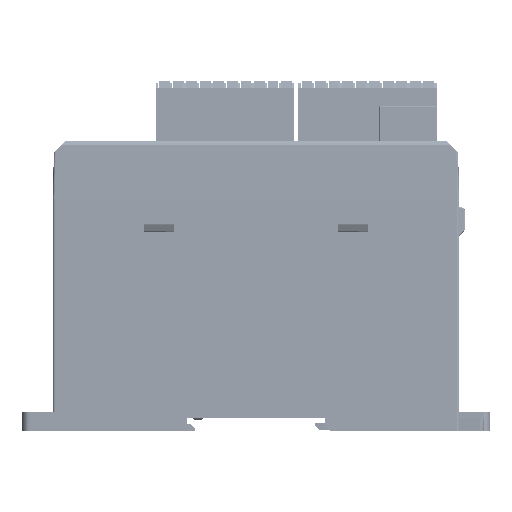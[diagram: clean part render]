
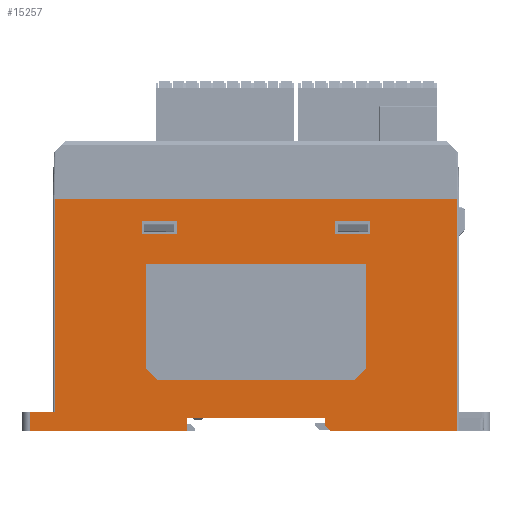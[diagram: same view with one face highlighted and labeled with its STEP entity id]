
A CAD part, left-side view. The second image highlights one B-rep face of the part: STEP entity #15257.
In plain terms, the highlighted planar face has unit normal (-1, 0, 0).
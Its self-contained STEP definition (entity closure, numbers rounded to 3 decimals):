
#205=DIRECTION('',(0.,-1.,0.));
#206=VECTOR('',#205,35.6);
#207=CARTESIAN_POINT('',(-22.5,17.8,0.));
#208=LINE('',#207,#206);
#359=DIRECTION('',(0.,1.,0.));
#360=VECTOR('',#359,32.7);
#361=CARTESIAN_POINT('',(-22.5,-52.,-3.3));
#362=LINE('',#361,#360);
#947=DIRECTION('',(0.,-1.,0.));
#948=VECTOR('',#947,51.);
#949=CARTESIAN_POINT('',(-22.5,25.5,10.));
#950=LINE('',#949,#948);
#951=DIRECTION('',(0.,0.,1.));
#952=VECTOR('',#951,27.);
#953=CARTESIAN_POINT('',(-22.5,-28.5,13.));
#954=LINE('',#953,#952);
#955=DIRECTION('',(0.,1.,0.));
#956=VECTOR('',#955,57.);
#957=CARTESIAN_POINT('',(-22.5,-28.5,40.));
#958=LINE('',#957,#956);
#959=DIRECTION('',(0.,0.,-1.));
#960=VECTOR('',#959,27.);
#961=CARTESIAN_POINT('',(-22.5,28.5,40.));
#962=LINE('',#961,#960);
#963=DIRECTION('',(0.,0.,-1.));
#964=VECTOR('',#963,3.5);
#965=CARTESIAN_POINT('',(-22.5,29.5,51.1));
#966=LINE('',#965,#964);
#967=DIRECTION('',(0.,-1.,0.));
#968=VECTOR('',#967,9.);
#969=CARTESIAN_POINT('',(-22.5,29.5,47.6));
#970=LINE('',#969,#968);
#971=DIRECTION('',(0.,0.,1.));
#972=VECTOR('',#971,3.5);
#973=CARTESIAN_POINT('',(-22.5,20.5,47.6));
#974=LINE('',#973,#972);
#975=DIRECTION('',(0.,1.,0.));
#976=VECTOR('',#975,9.);
#977=CARTESIAN_POINT('',(-22.5,20.5,51.1));
#978=LINE('',#977,#976);
#979=DIRECTION('',(0.,0.,-1.));
#980=VECTOR('',#979,3.5);
#981=CARTESIAN_POINT('',(-22.5,-20.5,51.1));
#982=LINE('',#981,#980);
#983=DIRECTION('',(0.,-1.,0.));
#984=VECTOR('',#983,9.);
#985=CARTESIAN_POINT('',(-22.5,-20.5,47.6));
#986=LINE('',#985,#984);
#987=DIRECTION('',(0.,0.,1.));
#988=VECTOR('',#987,3.5);
#989=CARTESIAN_POINT('',(-22.5,-29.5,47.6));
#990=LINE('',#989,#988);
#991=DIRECTION('',(0.,1.,0.));
#992=VECTOR('',#991,9.);
#993=CARTESIAN_POINT('',(-22.5,-29.5,51.1));
#994=LINE('',#993,#992);
#995=DIRECTION('',(0.,0.,1.));
#996=VECTOR('',#995,5.);
#997=CARTESIAN_POINT('',(-22.5,58.5,-3.3));
#998=LINE('',#997,#996);
#999=DIRECTION('',(0.,0.,1.));
#1000=VECTOR('',#999,54.9);
#1001=CARTESIAN_POINT('',(-22.5,52.,1.7));
#1002=LINE('',#1001,#1000);
#1003=DIRECTION('',(0.,0.,-1.));
#1004=VECTOR('',#1003,59.9);
#1005=CARTESIAN_POINT('',(-22.5,-52.,56.6));
#1006=LINE('',#1005,#1004);
#1007=DIRECTION('',(0.,-0.707,-0.707));
#1008=VECTOR('',#1007,2.121);
#1009=CARTESIAN_POINT('',(-22.5,-17.8,-1.8));
#1010=LINE('',#1009,#1008);
#1011=DIRECTION('',(0.,0.,-1.));
#1012=VECTOR('',#1011,3.3);
#1013=CARTESIAN_POINT('',(-22.5,17.8,0.));
#1014=LINE('',#1013,#1012);
#1015=DIRECTION('',(0.,1.,0.));
#1016=VECTOR('',#1015,40.7);
#1017=CARTESIAN_POINT('',(-22.5,17.8,-3.3));
#1018=LINE('',#1017,#1016);
#1027=DIRECTION('',(0.,0.707,0.707));
#1028=VECTOR('',#1027,4.243);
#1029=CARTESIAN_POINT('',(-22.5,25.5,10.));
#1030=LINE('',#1029,#1028);
#1071=DIRECTION('',(0.,0.707,-0.707));
#1072=VECTOR('',#1071,4.243);
#1073=CARTESIAN_POINT('',(-22.5,-28.5,13.));
#1074=LINE('',#1073,#1072);
#7166=DIRECTION('',(0.,1.,0.));
#7167=VECTOR('',#7166,6.5);
#7168=CARTESIAN_POINT('',(-22.5,52.,1.7));
#7169=LINE('',#7168,#7167);
#7248=DIRECTION('',(0.,0.,-1.));
#7249=VECTOR('',#7248,1.8);
#7250=CARTESIAN_POINT('',(-22.5,-17.8,0.));
#7251=LINE('',#7250,#7249);
#7354=DIRECTION('',(0.,-1.,0.));
#7355=VECTOR('',#7354,104.);
#7356=CARTESIAN_POINT('',(-22.5,52.,56.6));
#7357=LINE('',#7356,#7355);
#11069=CARTESIAN_POINT('',(-22.5,17.8,0.));
#11070=CARTESIAN_POINT('',(-22.5,-17.8,0.));
#11071=VERTEX_POINT('',#11069);
#11072=VERTEX_POINT('',#11070);
#11079=CARTESIAN_POINT('',(-22.5,17.8,-3.3));
#11080=VERTEX_POINT('',#11079);
#11082=CARTESIAN_POINT('',(-22.5,-52.,-3.3));
#11084=VERTEX_POINT('',#11082);
#11085=CARTESIAN_POINT('',(-22.5,-52.,56.6));
#11086=VERTEX_POINT('',#11085);
#11102=CARTESIAN_POINT('',(-22.5,52.,56.6));
#11104=VERTEX_POINT('',#11102);
#11289=CARTESIAN_POINT('',(-22.5,-28.5,40.));
#11290=CARTESIAN_POINT('',(-22.5,28.5,40.));
#11291=VERTEX_POINT('',#11289);
#11292=VERTEX_POINT('',#11290);
#11297=CARTESIAN_POINT('',(-22.5,25.5,10.));
#11298=VERTEX_POINT('',#11297);
#11299=CARTESIAN_POINT('',(-22.5,28.5,13.));
#11300=VERTEX_POINT('',#11299);
#11305=CARTESIAN_POINT('',(-22.5,-28.5,13.));
#11306=VERTEX_POINT('',#11305);
#11307=CARTESIAN_POINT('',(-22.5,-25.5,10.));
#11308=VERTEX_POINT('',#11307);
#11365=CARTESIAN_POINT('',(-22.5,29.5,51.1));
#11366=CARTESIAN_POINT('',(-22.5,29.5,47.6));
#11367=VERTEX_POINT('',#11365);
#11368=VERTEX_POINT('',#11366);
#11369=CARTESIAN_POINT('',(-22.5,20.5,47.6));
#11370=VERTEX_POINT('',#11369);
#11371=CARTESIAN_POINT('',(-22.5,20.5,51.1));
#11372=VERTEX_POINT('',#11371);
#11373=CARTESIAN_POINT('',(-22.5,-20.5,51.1));
#11374=CARTESIAN_POINT('',(-22.5,-20.5,47.6));
#11375=VERTEX_POINT('',#11373);
#11376=VERTEX_POINT('',#11374);
#11377=CARTESIAN_POINT('',(-22.5,-29.5,47.6));
#11378=VERTEX_POINT('',#11377);
#11379=CARTESIAN_POINT('',(-22.5,-29.5,51.1));
#11380=VERTEX_POINT('',#11379);
#11641=CARTESIAN_POINT('',(-22.5,-17.8,-1.8));
#11642=CARTESIAN_POINT('',(-22.5,-19.3,-3.3));
#11643=VERTEX_POINT('',#11641);
#11644=VERTEX_POINT('',#11642);
#13814=CARTESIAN_POINT('',(-22.5,52.,1.7));
#13816=VERTEX_POINT('',#13814);
#13842=CARTESIAN_POINT('',(-22.5,58.5,1.7));
#13844=VERTEX_POINT('',#13842);
#13845=CARTESIAN_POINT('',(-22.5,58.5,-3.3));
#13846=VERTEX_POINT('',#13845);
#15198=CARTESIAN_POINT('',(-22.5,52.5,0.));
#15199=DIRECTION('',(-1.,0.,0.));
#15200=DIRECTION('',(0.,-1.,0.));
#15201=AXIS2_PLACEMENT_3D('',#15198,#15199,#15200);
#15202=PLANE('',#15201);
#15204=ORIENTED_EDGE('',*,*,#15203,.T.);
#15206=ORIENTED_EDGE('',*,*,#15205,.F.);
#15208=ORIENTED_EDGE('',*,*,#15207,.T.);
#15210=ORIENTED_EDGE('',*,*,#15209,.T.);
#15212=ORIENTED_EDGE('',*,*,#15211,.T.);
#15213=ORIENTED_EDGE('',*,*,#14302,.T.);
#15214=ORIENTED_EDGE('',*,*,#15188,.F.);
#15216=ORIENTED_EDGE('',*,*,#15215,.F.);
#15217=ORIENTED_EDGE('',*,*,#14148,.F.);
#15219=ORIENTED_EDGE('',*,*,#15218,.T.);
#15220=ORIENTED_EDGE('',*,*,#14426,.T.);
#15221=EDGE_LOOP('',(#15204,#15206,#15208,#15210,#15212,#15213,#15214,#15216,
#15217,#15219,#15220));
#15222=FACE_OUTER_BOUND('',#15221,.F.);
#15224=ORIENTED_EDGE('',*,*,#15223,.T.);
#15226=ORIENTED_EDGE('',*,*,#15225,.T.);
#15228=ORIENTED_EDGE('',*,*,#15227,.T.);
#15230=ORIENTED_EDGE('',*,*,#15229,.T.);
#15231=EDGE_LOOP('',(#15224,#15226,#15228,#15230));
#15232=FACE_BOUND('',#15231,.F.);
#15234=ORIENTED_EDGE('',*,*,#15233,.T.);
#15236=ORIENTED_EDGE('',*,*,#15235,.T.);
#15238=ORIENTED_EDGE('',*,*,#15237,.T.);
#15240=ORIENTED_EDGE('',*,*,#15239,.T.);
#15241=EDGE_LOOP('',(#15234,#15236,#15238,#15240));
#15242=FACE_BOUND('',#15241,.F.);
#15244=ORIENTED_EDGE('',*,*,#15243,.T.);
#15246=ORIENTED_EDGE('',*,*,#15245,.F.);
#15248=ORIENTED_EDGE('',*,*,#15247,.T.);
#15250=ORIENTED_EDGE('',*,*,#15249,.T.);
#15252=ORIENTED_EDGE('',*,*,#15251,.T.);
#15254=ORIENTED_EDGE('',*,*,#15253,.F.);
#15255=EDGE_LOOP('',(#15244,#15246,#15248,#15250,#15252,#15254));
#15256=FACE_BOUND('',#15255,.F.);
#15257=ADVANCED_FACE('',(#15222,#15232,#15242,#15256),#15202,.T.);
#14148=EDGE_CURVE('',#11071,#11072,#208,.T.);
#14302=EDGE_CURVE('',#11084,#11644,#362,.T.);
#14426=EDGE_CURVE('',#11080,#13846,#1018,.T.);
#15188=EDGE_CURVE('',#11643,#11644,#1010,.T.);
#15203=EDGE_CURVE('',#13846,#13844,#998,.T.);
#15205=EDGE_CURVE('',#13816,#13844,#7169,.T.);
#15207=EDGE_CURVE('',#13816,#11104,#1002,.T.);
#15209=EDGE_CURVE('',#11104,#11086,#7357,.T.);
#15211=EDGE_CURVE('',#11086,#11084,#1006,.T.);
#15215=EDGE_CURVE('',#11072,#11643,#7251,.T.);
#15218=EDGE_CURVE('',#11071,#11080,#1014,.T.);
#15223=EDGE_CURVE('',#11367,#11368,#966,.T.);
#15225=EDGE_CURVE('',#11368,#11370,#970,.T.);
#15227=EDGE_CURVE('',#11370,#11372,#974,.T.);
#15229=EDGE_CURVE('',#11372,#11367,#978,.T.);
#15233=EDGE_CURVE('',#11375,#11376,#982,.T.);
#15235=EDGE_CURVE('',#11376,#11378,#986,.T.);
#15237=EDGE_CURVE('',#11378,#11380,#990,.T.);
#15239=EDGE_CURVE('',#11380,#11375,#994,.T.);
#15243=EDGE_CURVE('',#11298,#11308,#950,.T.);
#15245=EDGE_CURVE('',#11306,#11308,#1074,.T.);
#15247=EDGE_CURVE('',#11306,#11291,#954,.T.);
#15249=EDGE_CURVE('',#11291,#11292,#958,.T.);
#15251=EDGE_CURVE('',#11292,#11300,#962,.T.);
#15253=EDGE_CURVE('',#11298,#11300,#1030,.T.);
